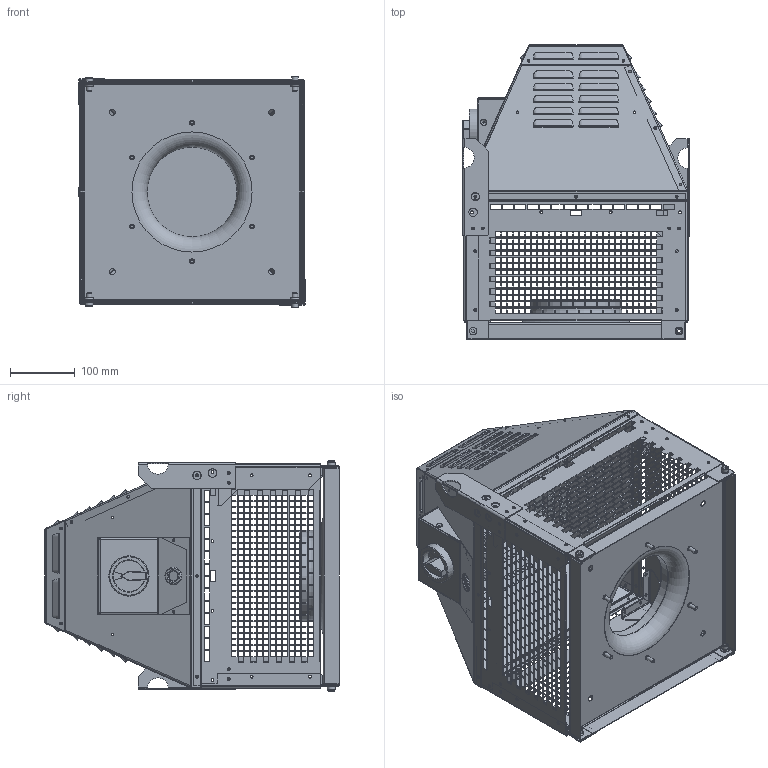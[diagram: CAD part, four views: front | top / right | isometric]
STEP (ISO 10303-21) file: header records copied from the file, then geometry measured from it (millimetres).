
FILE_DESCRIPTION (( 'STEP AP203' ), '1' );
FILE_NAME ('150593-00_DHN225D2F430_step.step', '2019-05-10T11:21:04', ( '' ), ( '' ), 'SwSTEP 2.0', 'SolidWorks 2017', '' );
FILE_SCHEMA (( 'CONFIG_CONTROL_DESIGN' ));
Products named in the file (1): 150593-00_DHN225D2F430_step
Bounding box: 349.3 x 452.81 x 356.3 mm (x, y, z)
Surface area: 1508061.6 mm2 (no closed solid volume)
Topology: 0 solids, 56 shells, 3373 faces, 12947 edges, 8606 vertices
Faces by surface type: plane 2737, cylinder 372, bspline 224, torus 26, cone 10, sphere 4
Full cylindrical faces by diameter (mm): 3.2 x10, 4.2 x90, 4.5 x66, 5.4 x3, 6 x10, 7.4 x6, 8 x1, 9 x8, 10 x2, 12 x4, 13 x8, 16 x2, 20 x2, 26 x1, 27.5 x1, 61 x1, 138 x1, 140 x1
Entity records: 167855 total; most frequent: CARTESIAN_POINT 61105, ORIENTED_EDGE 20655, DIRECTION 18904, EDGE_CURVE 12613, VECTOR 10992, LINE 10992, VERTEX_POINT 8604, EDGE_LOOP 5766
